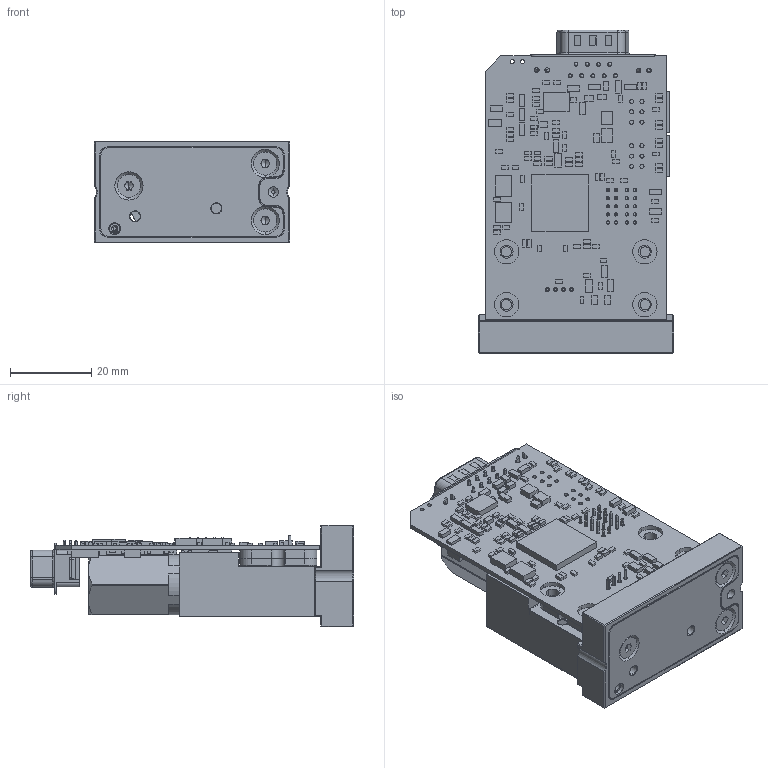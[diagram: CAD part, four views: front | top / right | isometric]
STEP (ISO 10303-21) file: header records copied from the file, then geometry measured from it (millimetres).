
FILE_DESCRIPTION (( 'STEP AP203' ), '1' );
FILE_NAME ('100802-00_ SFC 5300.step', '2015-04-16T07:39:28', ( 'IT' ), ( '' ), 'SwSTEP 2.0', 'SolidWorks 2013', '' );
FILE_SCHEMA (( 'CONFIG_CONTROL_DESIGN' ));
Length unit declared in the file: millimetre
Products named in the file (27): SEN_PCB Breithorn Withney_V5_SFC_00; F04-0005_00; 100462_00; 100802-00_ SFC 5300; M03-0026_00; DIN 7991 - M3 x 8 --- 4.8N_DIN 7991 - M3 x 8 --- 4.8N; 102656_00; 102655_00; F04-0002_00; 102657_00; Atlas-chip_00; F04-0003_Standard; 102658_00; F04-0014_00; F04-0004_00; 102660_00; F04-0015_00; 102662_00; nor_Flatprop_4_5mm_00; 100461_00; 100460_00
Assembly tree (23 placements, depth 5):
  100802-00_ SFC 5300
    100460_00
      100461_00
      100462_00
      DIN 7991 - M3 x 8 --- 4.8N_DIN 7991 - M3 x 8 --- 4.8N
      DIN 7991 - M3 x 8 --- 4.8N_DIN 7991 - M3 x 8 --- 4.8N
      DIN 7991 - M3 x 8 --- 4.8N_DIN 7991 - M3 x 8 --- 4.8N
      F04-0015_00
        F04-0002_00
          F04-0003_Standard
          F04-0005_00
          F04-0005_00
          F04-0005_00
          F04-0005_00
          F04-0005_00
      nor_Flatprop_4_5mm_00
      SEN_PCB Breithorn Withney_V5_SFC_00
      M03-0026_00
      102657_00
        102656_00
        102655_00
      102662_00
        102658_00
        102660_00
  Atlas-chip_00
  F04-0014_00
  F04-0004_00
Bounding box: 48 x 79.55 x 25 mm (x, y, z)
Volume: 19980.3 mm3; surface area: 33963 mm2
Topology: 163 solids, 172 shells, 2980 faces, 7256 edges, 4637 vertices
Faces by surface type: plane 2060, cylinder 563, bspline 203, cone 139, torus 15
Entity records: 95491 total; most frequent: CARTESIAN_POINT 23263, ORIENTED_EDGE 14428, DIRECTION 13671, EDGE_CURVE 7214, VECTOR 5449, LINE 5449, VERTEX_POINT 4637, AXIS2_PLACEMENT_3D 4111
